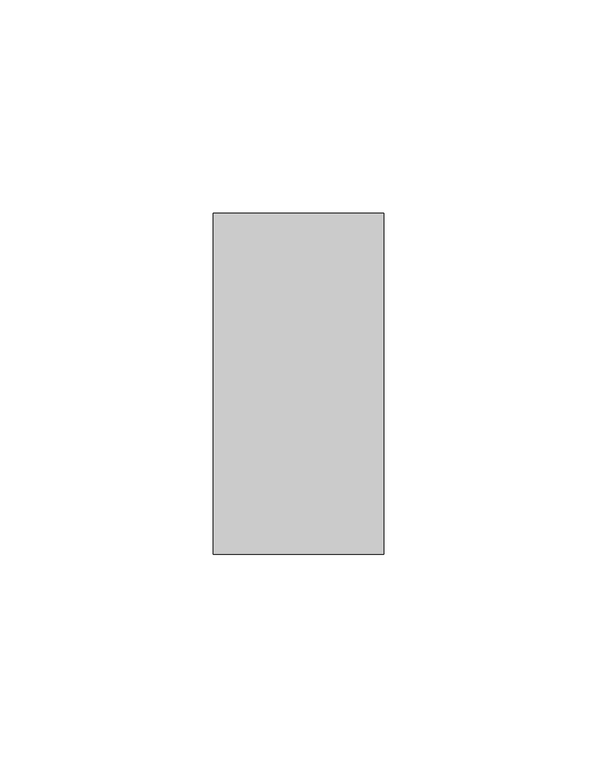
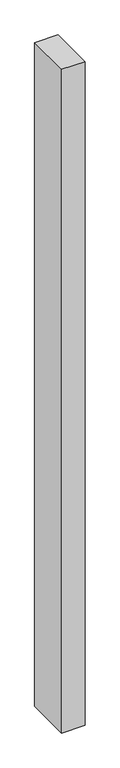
"""IFC4 building model written with IfcOpenShell, lengths in millimetres: member geometry, Obdélníková příčel : VERTI PANORAMA - vertikální."""

from ifc_helpers import new_model, si_unit, frame, origin, place, context, project, spatial, polyline, outline, extrude, source, transform, mapped, element, save


def member_916f06cf(model_context):
    return source(origin(), model_context, "Body", "SweptSolid", [
        extrude(outline(polyline([(0.0, 40.0), (0.0, -40.0), (-40.0, -40.0), (-40.0, 40.0), (0.0, 40.0)])), frame((0.0, 0.0, -1200.0), z_axis=(0.0, 0.0, 1.0), x_axis=(1.0, 0.0, 0.0)), (0.0, 0.0, 1.0), 1200.0),
    ])


if __name__ == "__main__":
    model = new_model("IFC4")
    model_context = context("Model", 3, world=origin())
    ifc_project = project(units=[si_unit("LENGTHUNIT", "METRE", prefix="MILLI")], contexts=[model_context])
    site = spatial("IfcSite", under=ifc_project)
    building = spatial("IfcBuilding", under=site)
    placement = place(None, origin())
    member_shape = member_916f06cf(model_context)
    element("IfcMember", 1, ObjectType="Obdélníková příčel : VERTI PANORAMA - vertikální", at=placement, inside=building, context=model_context, shape_type="MappedRepresentation", body=[
        mapped(member_shape, transform((0.0, 0.0, 0.0), x_axis=(1.0, 0.0, 0.0), y_axis=(0.0, 1.0, 0.0), z_axis=(0.0, 0.0, 1.0))),
    ])
    save(model, "model.ifc")
